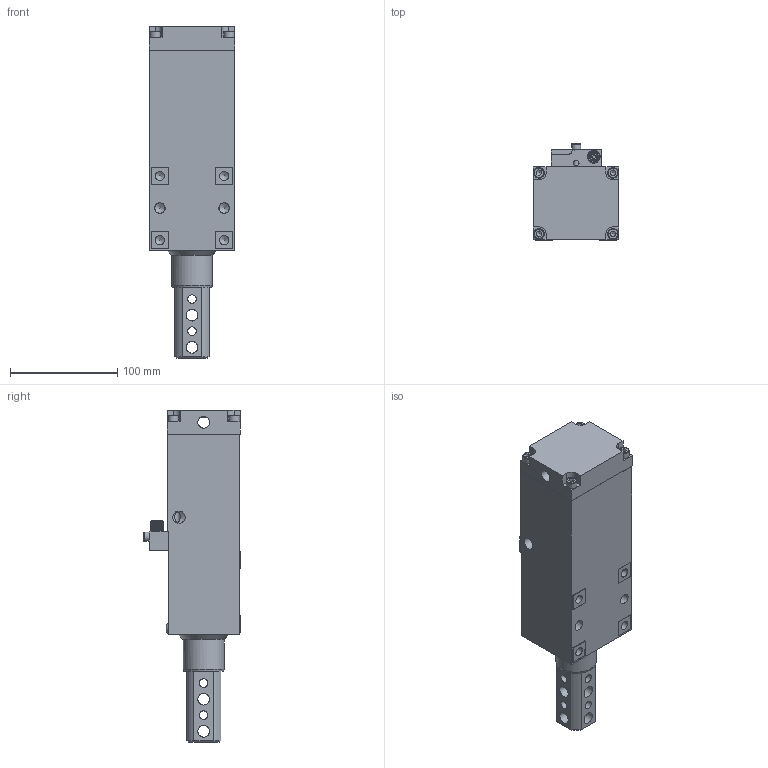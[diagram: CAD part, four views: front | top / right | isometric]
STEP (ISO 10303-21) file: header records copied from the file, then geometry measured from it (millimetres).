
FILE_DESCRIPTION(/* description */ (''),/* implementation_level */ '2;1');
FILE_NAME(/* name */ 'M:\cad\PRODUCT\LSA\LSA - 85\STEP\LSA-85\25 mm Stroke\LSA-85 25 mm Stroke - Extend.stp',/* time_stamp */ '2018-06-21T12:59:31-04:00',/* author */ ('Tyler'),/* organization */ (''),/* preprocessor_version */ 'ST-DEVELOPER v17',/* originating_system */ 'Autodesk Inventor 2019',/* authorisation */ '');
FILE_SCHEMA (('AUTOMOTIVE_DESIGN { 1 0 10303 214 3 1 1 }'));
Length unit declared in the file: inch
Products named in the file (1): LSA-85 w_ New Sensor Package - Extend 25mm Stripped_Substitute_2
Bounding box: 80.01 x 89.81 x 310.08 mm (x, y, z)
Volume: 882268.7 mm3; surface area: 174991.5 mm2
Topology: 2 solids, 2 shells, 431 faces, 1261 edges, 849 vertices
Faces by surface type: plane 217, cylinder 147, cone 55, torus 11, bspline 1
Full cylindrical faces by diameter (mm): 1 x8, 2 x2, 3.264 x6, 3.302 x1, 5 x2, 5.3 x4, 6.35 x2, 8.014 x8, 8.3 x1, 8.382 x4, 8.5 x1, 9.169 x1, 9.652 x2, 10 x4, 10.02 x2, 10.16 x1, 10.312 x1, 10.5 x1, 10.998 x8, 11.112 x2, 11.455 x2, 11.76 x1, 11.811 x1, 12 x1, 15.875 x2, 17.78 x1, 31.75 x1, 38.087 x1, 38.1 x3, 44.501 x1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
Entity records: 15388 total; most frequent: CARTESIAN_POINT 3047, DIRECTION 2557, ORIENTED_EDGE 2494, EDGE_CURVE 1247, AXIS2_PLACEMENT_3D 964, VERTEX_POINT 849, LINE 629, VECTOR 629
